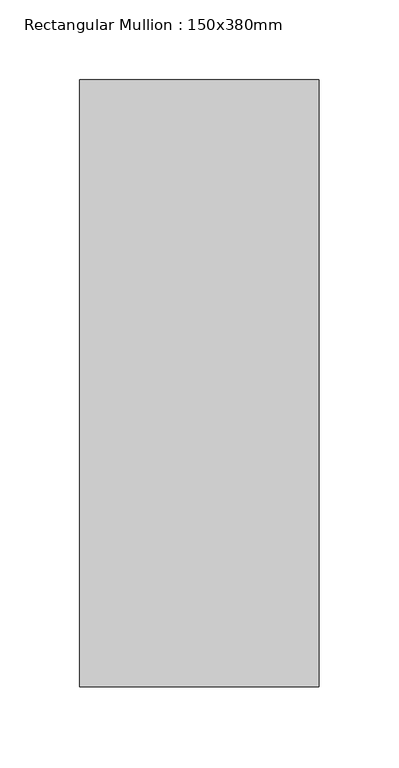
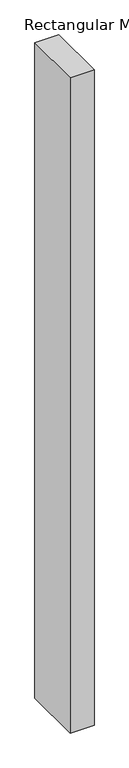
"""IFC4 building model written with IfcOpenShell, lengths in millimetres: member geometry, Rectangular Mullion : 150x380mm."""

from ifc_helpers import new_model, si_unit, frame, origin, place, context, project, spatial, polyline, outline, extrude, source, transform, mapped, element, save


def rectangular_mullion_150x380mm_7df002e1(model_context):
    return source(origin(), model_context, "Body", "SweptSolid", [
        extrude(outline(polyline([(75.0, 190.0), (75.0, -190.0), (-75.0, -190.0), (-75.0, 190.0), (75.0, 190.0)])), frame((0.0, 0.0, -4330.0), z_axis=(0.0, 0.0, 1.0), x_axis=(1.0, 0.0, 0.0)), (0.0, 0.0, 1.0), 4330.0),
    ])


if __name__ == "__main__":
    model = new_model("IFC4")
    model_context = context("Model", 3, world=origin())
    ifc_project = project(units=[si_unit("LENGTHUNIT", "METRE", prefix="MILLI")], contexts=[model_context])
    site = spatial("IfcSite", under=ifc_project)
    building = spatial("IfcBuilding", under=site)
    placement = place(None, origin())
    rectangular_mullion_150x380mm_shape = rectangular_mullion_150x380mm_7df002e1(model_context)
    element("IfcMember", 1, ObjectType="Rectangular Mullion : 150x380mm", at=placement, inside=building, context=model_context, shape_type="MappedRepresentation", body=[
        mapped(rectangular_mullion_150x380mm_shape, transform((0.0, 0.0, 0.0), x_axis=(1.0, 0.0, 0.0), y_axis=(0.0, 1.0, 0.0), z_axis=(0.0, 0.0, 1.0))),
    ])
    save(model, "model.ifc")
